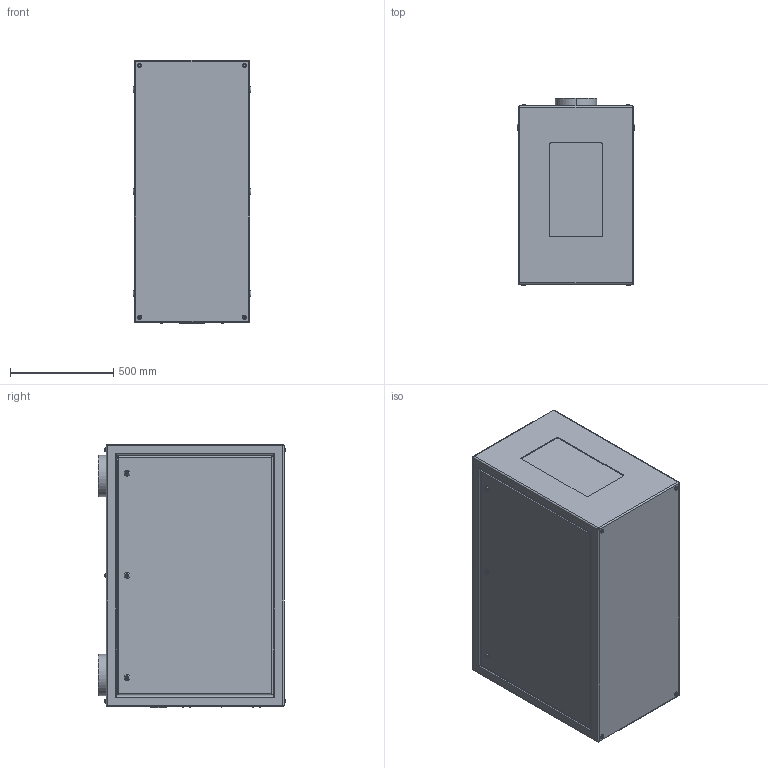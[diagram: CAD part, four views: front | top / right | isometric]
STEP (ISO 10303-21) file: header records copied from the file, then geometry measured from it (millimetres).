
FILE_DESCRIPTION (( 'STEP AP214' ), '1' );
FILE_NAME ('Tacit 56.210.P R08.STEP', '2022-09-11T22:34:47', ( '' ), ( '' ), 'SwSTEP 2.0', 'SolidWorks 2020', '' );
FILE_SCHEMA (( 'AUTOMOTIVE_DESIGN' ));
Length unit declared in the file: inch
Products named in the file (1): Tacit 56.210.P R08
Bounding box: 571.5 x 908.96 x 1275.08 mm (x, y, z)
Volume: 611489025 mm3; surface area: 4928995.1 mm2
Topology: 1 solids, 7 shells, 401 faces, 892 edges, 560 vertices
Faces by surface type: plane 177, cylinder 168, torus 48, sphere 8
Entity records: 15563 total; most frequent: CARTESIAN_POINT 2414, DIRECTION 1972, ORIENTED_EDGE 1768, EDGE_CURVE 884, AXIS2_PLACEMENT_3D 782, VERTEX_POINT 560, EDGE_LOOP 464, LINE 408
